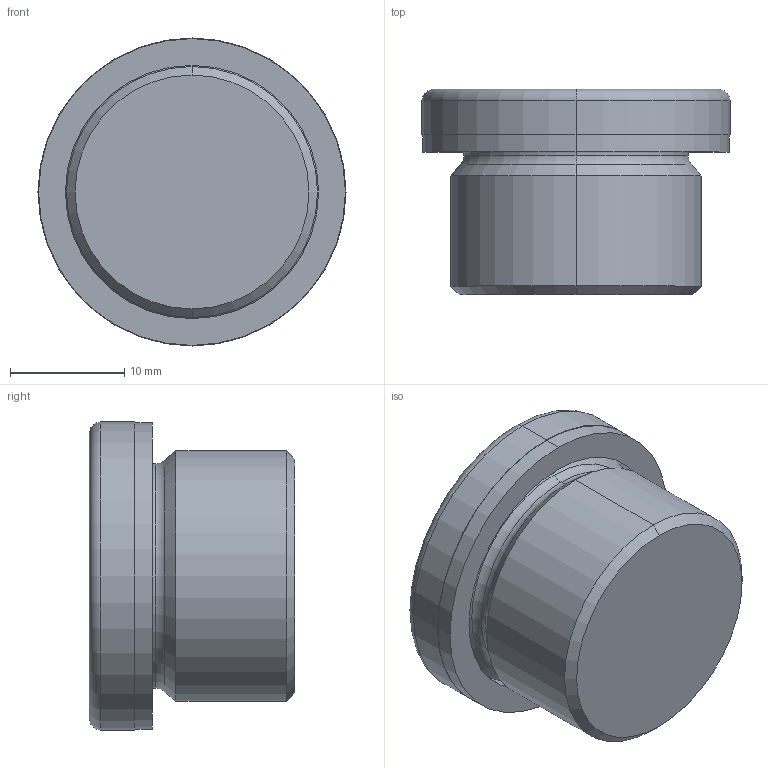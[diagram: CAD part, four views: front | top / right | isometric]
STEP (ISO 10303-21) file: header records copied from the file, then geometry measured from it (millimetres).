
FILE_DESCRIPTION (( 'STEP AP214' ), '1' );
FILE_NAME ('908-A4-M22x1,5-AA.step', '2024-12-19T09:18:40', ( '' ), ( '' ), 'SwSTEP 2.0', 'SolidWorks 2022', '' );
FILE_SCHEMA (( 'AUTOMOTIVE_DESIGN' ));
Length unit declared in the file: millimetre
Products named in the file (1): 908-A4-M22x1,5-AA
Bounding box: 27 x 18 x 27 mm (x, y, z)
Volume: 7034.7 mm3; surface area: 2902.1 mm2
Topology: 1 solids, 1 shells, 31 faces, 64 edges, 38 vertices
Faces by surface type: plane 11, cylinder 8, torus 6, cone 6
Entity records: 929 total; most frequent: DIRECTION 160, CARTESIAN_POINT 134, ORIENTED_EDGE 128, AXIS2_PLACEMENT_3D 64, EDGE_CURVE 64, VERTEX_POINT 38, EDGE_LOOP 34, LINE 32
